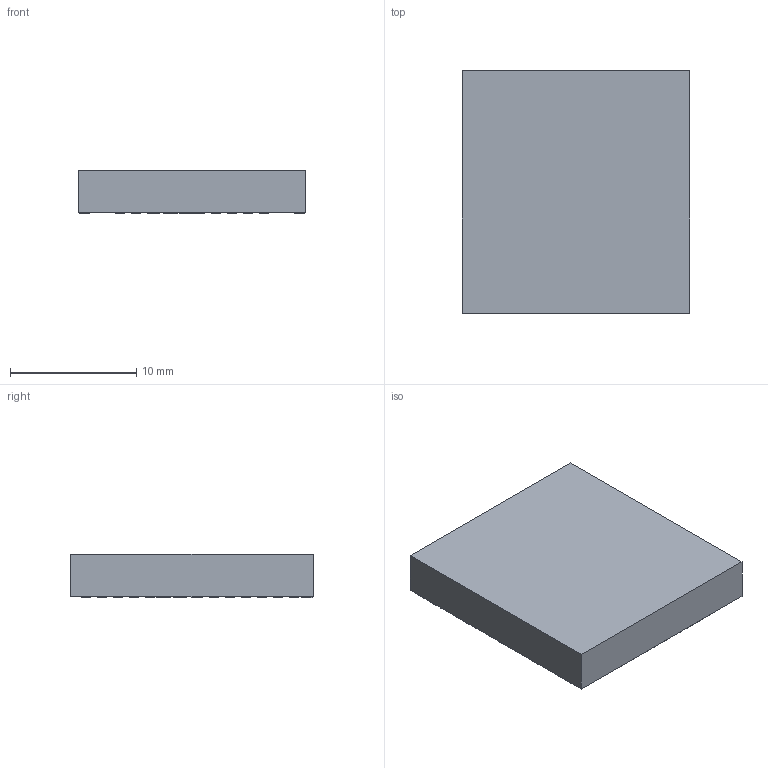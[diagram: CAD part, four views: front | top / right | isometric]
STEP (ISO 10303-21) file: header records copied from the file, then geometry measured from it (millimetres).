
FILE_DESCRIPTION(('FreeCAD Model'),'2;1');
FILE_NAME('/var/www/3D/0T/15885454.2.4.stp','2025-07-30T11:17:15',( 'Author'),(''),'Open CASCADE STEP processor 6.9','FreeCAD','Unknown' );
FILE_SCHEMA(('AUTOMOTIVE_DESIGN { 1 0 10303 214 1 1 1 1 }'));
Length unit declared in the file: millimetre
Products named in the file (3): ASSEMBLY; Body; Pins
Assembly tree (2 placements, depth 2):
  ASSEMBLY
    Body
    Pins
Bounding box: 18 x 19.2 x 3.45 mm (x, y, z)
Volume: 1160.5 mm3; surface area: 1008.9 mm2
Topology: 48 solids, 48 shells, 288 faces, 576 edges, 384 vertices
Faces by surface type: plane 288
Entity records: 15176 total; most frequent: CARTESIAN_POINT 2403, DIRECTION 2310, LINE 1728, VECTOR 1728, ORIENTED_EDGE 1152, PCURVE 1152, DEFINITIONAL_REPRESENTATION 1152, EDGE_CURVE 576
